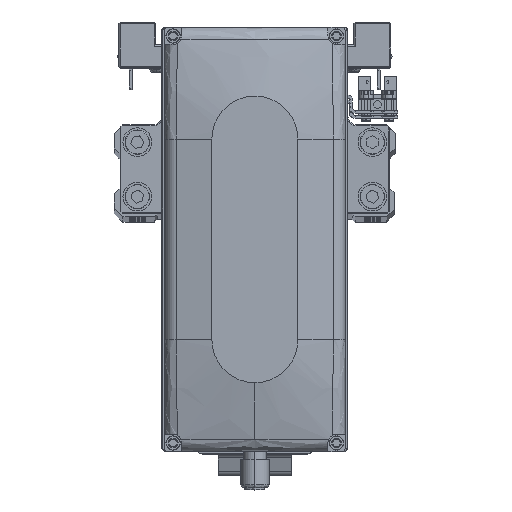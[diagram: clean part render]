
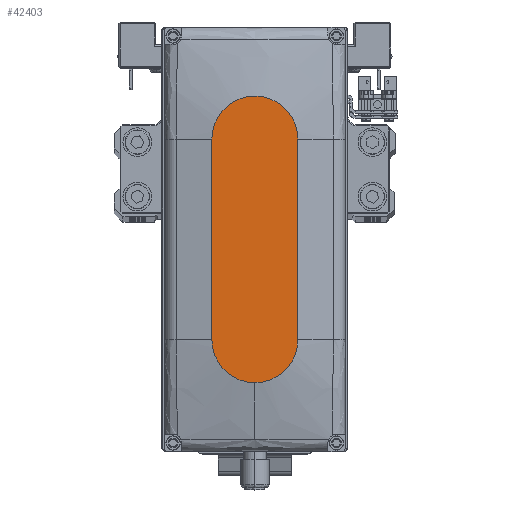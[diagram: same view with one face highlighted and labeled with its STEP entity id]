
A CAD part, top view. The second image highlights one B-rep face of the part: STEP entity #42403.
In plain terms, the highlighted planar face has unit normal (0, 0, 1).
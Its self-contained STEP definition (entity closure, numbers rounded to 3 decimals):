
#281 = VERTEX_POINT ( 'NONE', #18724 ) ;
#332 = CIRCLE ( 'NONE', #25607, 15. ) ;
#1541 = ORIENTED_EDGE ( 'NONE', *, *, #39047, .T. ) ;
#2345 = DIRECTION ( 'NONE',  ( 1., 0., 0. ) ) ;
#3700 = CARTESIAN_POINT ( 'NONE',  ( -35., 0., 35. ) ) ;
#4700 = ORIENTED_EDGE ( 'NONE', *, *, #35406, .T. ) ;
#5815 = AXIS2_PLACEMENT_3D ( 'NONE', #19535, #33336, #2345 ) ;
#6471 = CARTESIAN_POINT ( 'NONE',  ( -35., -15., 35. ) ) ;
#6537 = CARTESIAN_POINT ( 'NONE',  ( -35., 15., 35. ) ) ;
#9994 = LINE ( 'NONE', #23777, #18585 ) ;
#10049 = CARTESIAN_POINT ( 'NONE',  ( -35., -15., 35. ) ) ;
#12020 = AXIS2_PLACEMENT_3D ( 'NONE', #12804, #26599, #40406 ) ;
#12804 = CARTESIAN_POINT ( 'NONE',  ( 0., 0., 35. ) ) ;
#13598 = DIRECTION ( 'NONE',  ( 1., 0., 0. ) ) ;
#14395 = EDGE_LOOP ( 'NONE', ( #34969, #1541, #4700, #33822, #42214 ) ) ;
#16134 = CARTESIAN_POINT ( 'NONE',  ( 35., -15., 35. ) ) ;
#17490 = DIRECTION ( 'NONE',  ( 0., 0., 1. ) ) ;
#17934 = CIRCLE ( 'NONE', #43224, 15. ) ;
#18526 = EDGE_CURVE ( 'NONE', #25246, #281, #17934, .T. ) ;
#18585 = VECTOR ( 'NONE', #37583, 1000. ) ;
#18724 = CARTESIAN_POINT ( 'NONE',  ( 50., 0., 35. ) ) ;
#19535 = CARTESIAN_POINT ( 'NONE',  ( 35., 0., 35. ) ) ;
#23564 = VERTEX_POINT ( 'NONE', #6471 ) ;
#23777 = CARTESIAN_POINT ( 'NONE',  ( -35., 15., 35. ) ) ;
#23831 = DIRECTION ( 'NONE',  ( 1., 0., 0. ) ) ;
#25230 = EDGE_CURVE ( 'NONE', #281, #37492, #25322, .T. ) ;
#25246 = VERTEX_POINT ( 'NONE', #16134 ) ;
#25322 = CIRCLE ( 'NONE', #5815, 15. ) ;
#25607 = AXIS2_PLACEMENT_3D ( 'NONE', #3700, #17490, #31290 ) ;
#26599 = DIRECTION ( 'NONE',  ( 0., 0., 1. ) ) ;
#29986 = FACE_OUTER_BOUND ( 'NONE', #14395, .T. ) ;
#30787 = CARTESIAN_POINT ( 'NONE',  ( 35., 0., 35. ) ) ;
#31290 = DIRECTION ( 'NONE',  ( 1., 0., 0. ) ) ;
#33336 = DIRECTION ( 'NONE',  ( 0., 0., 1. ) ) ;
#33822 = ORIENTED_EDGE ( 'NONE', *, *, #18526, .T. ) ;
#34969 = ORIENTED_EDGE ( 'NONE', *, *, #35753, .T. ) ;
#35406 = EDGE_CURVE ( 'NONE', #23564, #25246, #41041, .T. ) ;
#35753 = EDGE_CURVE ( 'NONE', #37492, #38643, #9994, .T. ) ;
#37492 = VERTEX_POINT ( 'NONE', #37971 ) ;
#37583 = DIRECTION ( 'NONE',  ( -1., 0., 0. ) ) ;
#37971 = CARTESIAN_POINT ( 'NONE',  ( 35., 15., 35. ) ) ;
#38643 = VERTEX_POINT ( 'NONE', #6537 ) ;
#39047 = EDGE_CURVE ( 'NONE', #38643, #23564, #332, .T. ) ;
#40406 = DIRECTION ( 'NONE',  ( 1., 0., 0. ) ) ;
#41041 = LINE ( 'NONE', #10049, #43825 ) ;
#42214 = ORIENTED_EDGE ( 'NONE', *, *, #25230, .T. ) ;
#42403 = ADVANCED_FACE ( 'NONE', ( #29986 ), #43794, .T. ) ;
#43224 = AXIS2_PLACEMENT_3D ( 'NONE', #30787, #44596, #13598 ) ;
#43794 = PLANE ( 'NONE',  #12020 ) ;
#43825 = VECTOR ( 'NONE', #23831, 1000. ) ;
#44596 = DIRECTION ( 'NONE',  ( 0., 0., 1. ) ) ;
